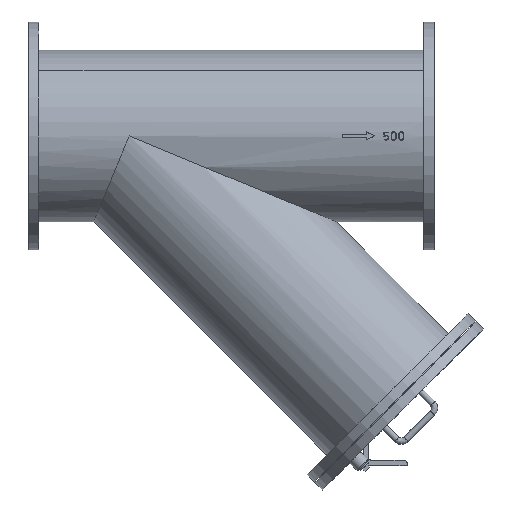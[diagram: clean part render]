
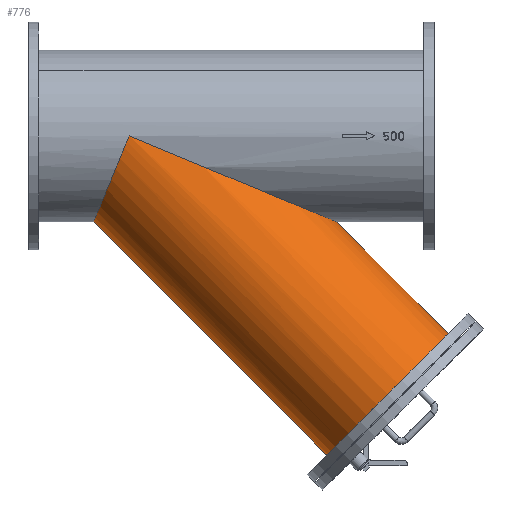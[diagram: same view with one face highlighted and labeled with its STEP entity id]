
A CAD part, front view. The second image highlights one B-rep face of the part: STEP entity #776.
In plain terms, the highlighted cylindrical face has radius 254 mm (diameter 508 mm), a partial arc.
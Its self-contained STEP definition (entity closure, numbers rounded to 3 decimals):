
#776=ADVANCED_FACE('',(#2423),#2422,.T.);
#2422=CYLINDRICAL_SURFACE('',#5090,254.);
#2423=FACE_OUTER_BOUND('',#5091,.T.);
#5087=CARTESIAN_POINT('',(148.75,0.,148.75));
#5088=DIRECTION('',(-0.707,0.,0.707));
#5089=DIRECTION('',(0.707,0.,0.707));
#5090=AXIS2_PLACEMENT_3D('',#5087,#5088,#5089);
#5091=EDGE_LOOP('',(#6952,#6953,#6954,#6955,#6956));
#6952=ORIENTED_EDGE('',*,*,#7857,.F.);
#6953=ORIENTED_EDGE('',*,*,#7854,.T.);
#6954=ORIENTED_EDGE('',*,*,#7806,.F.);
#6955=ORIENTED_EDGE('',*,*,#7805,.F.);
#6956=ORIENTED_EDGE('',*,*,#7856,.F.);
#7805=EDGE_CURVE('',#10789,#10796,#10797,.T.);
#7806=EDGE_CURVE('',#10796,#10803,#10804,.T.);
#7854=EDGE_CURVE('',#11092,#10803,#11093,.T.);
#7856=EDGE_CURVE('',#11099,#10789,#11106,.T.);
#7857=EDGE_CURVE('',#11092,#11099,#11112,.T.);
#10789=VERTEX_POINT('',#14697);
#10796=VERTEX_POINT('',#14701);
#10797=(BOUNDED_CURVE() B_SPLINE_CURVE(2,(#14702,#14703,#14704),.UNSPECIFIED.,.F.,.F.) B_SPLINE_CURVE_WITH_KNOTS((3,3),(6.283,7.854),.UNSPECIFIED.) CURVE() GEOMETRIC_REPRESENTATION_ITEM() RATIONAL_B_SPLINE_CURVE((1.,0.707,1.)) REPRESENTATION_ITEM('') );
#10803=VERTEX_POINT('',#14705);
#10804=(BOUNDED_CURVE() B_SPLINE_CURVE(2,(#14706,#14707,#14708),.UNSPECIFIED.,.F.,.F.) B_SPLINE_CURVE_WITH_KNOTS((3,3),(-4.712,-3.142),.UNSPECIFIED.) CURVE() GEOMETRIC_REPRESENTATION_ITEM() RATIONAL_B_SPLINE_CURVE((1.,0.707,1.)) REPRESENTATION_ITEM('') );
#11092=VERTEX_POINT('',#14804);
#11093=(BOUNDED_CURVE() B_SPLINE_CURVE(1,(#14805,#14806),.UNSPECIFIED.,.F.,.F.) B_SPLINE_CURVE_WITH_KNOTS((2,2),(0.009,0.434),.UNSPECIFIED.) CURVE() GEOMETRIC_REPRESENTATION_ITEM() RATIONAL_B_SPLINE_CURVE((1.,1.)) REPRESENTATION_ITEM('') );
#11099=VERTEX_POINT('',#14807);
#11106=(BOUNDED_CURVE() B_SPLINE_CURVE(1,(#14812,#14813),.UNSPECIFIED.,.F.,.F.) B_SPLINE_CURVE_WITH_KNOTS((2,2),(0.009,0.895),.UNSPECIFIED.) CURVE() GEOMETRIC_REPRESENTATION_ITEM() RATIONAL_B_SPLINE_CURVE((0.75,0.75)) REPRESENTATION_ITEM('') );
#11112=CIRCLE('',#14817,254.);
#14697=CARTESIAN_POINT('',(192.29,0.,-254.));
#14701=CARTESIAN_POINT('',(297.5,-254.,0.));
#14702=CARTESIAN_POINT('',(192.29,0.,-254.));
#14703=CARTESIAN_POINT('',(192.29,-254.,-254.));
#14704=CARTESIAN_POINT('',(297.5,-254.,0.));
#14705=CARTESIAN_POINT('',(910.71,0.,-254.));
#14706=CARTESIAN_POINT('',(297.5,-254.,0.));
#14707=CARTESIAN_POINT('',(910.71,-254.,-254.));
#14708=CARTESIAN_POINT('',(910.71,0.,-254.));
#14804=CARTESIAN_POINT('',(1242.188,0.,-585.478));
#14805=CARTESIAN_POINT('',(1242.188,0.,-585.478));
#14806=CARTESIAN_POINT('',(910.71,0.,-254.));
#14807=CARTESIAN_POINT('',(882.978,0.,-944.688));
#14812=CARTESIAN_POINT('',(882.978,0.,-944.688));
#14813=CARTESIAN_POINT('',(192.29,0.,-254.));
#14814=CARTESIAN_POINT('',(1062.583,0.,-765.083));
#14815=DIRECTION('',(0.707,0.,-0.707));
#14816=DIRECTION('',(-0.707,0.,-0.707));
#14817=AXIS2_PLACEMENT_3D('',#14814,#14815,#14816);
